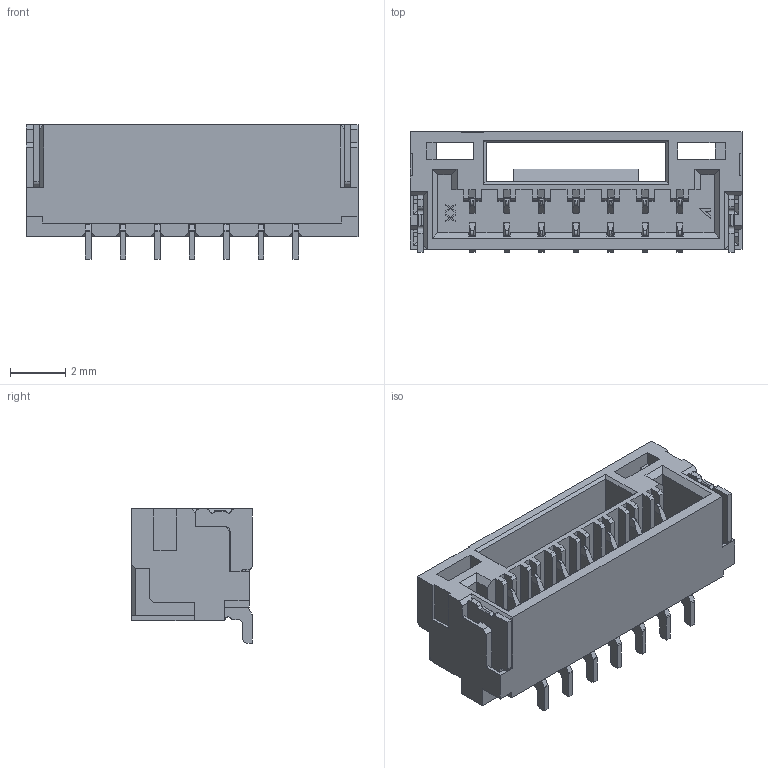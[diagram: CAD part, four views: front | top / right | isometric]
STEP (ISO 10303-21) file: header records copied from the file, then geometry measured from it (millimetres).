
FILE_DESCRIPTION((''),'2;1');
FILE_NAME('S-51451-007XX-XXX','2019-12-24T',('k49820'),(''),'PRO/ENGINEER BY PARAMETRIC TECHNOLOGY CORPORATION, 2009360','PRO/ENGINEER BY PARAMETRIC TECHNOLOGY CORPORATION, 2009360','');
FILE_SCHEMA(('CONFIG_CONTROL_DESIGN'));
Length unit declared in the file: millimetre
Products named in the file (1): S-51451-007XX-XXX
Bounding box: 12 x 4.35 x 4.85 mm (x, y, z)
Volume: 116.1 mm3; surface area: 532.9 mm2
Topology: 1 solids, 1 shells, 941 faces, 2926 edges, 1926 vertices
Faces by surface type: plane 726, cylinder 215
Entity records: 32616 total; most frequent: CARTESIAN_POINT 6269, ORIENTED_EDGE 5852, DIRECTION 5110, EDGE_CURVE 2926, VECTOR 2376, LINE 2376, VERTEX_POINT 1926, AXIS2_PLACEMENT_3D 1367
